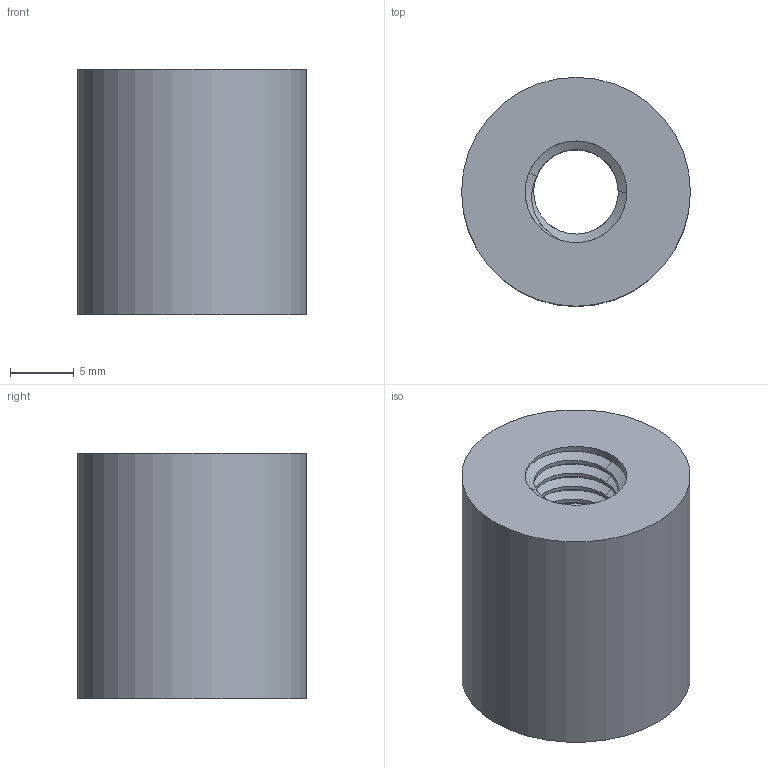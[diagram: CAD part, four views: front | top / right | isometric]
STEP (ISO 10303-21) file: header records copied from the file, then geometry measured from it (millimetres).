
FILE_DESCRIPTION(('Mechanical CAD reference from nasji.com'),'2;1');
FILE_NAME('NASJI.step','',(''),(''),'','NASJI distribution','');
FILE_SCHEMA(('AUTOMOTIVE_DESIGN { 1 0 10303 214 1 1 1 1 }'));
Length unit declared in the file: millimetre
Products named in the file (1): Open CASCADE STEP translator 7.8 198
Bounding box: 18 x 18 x 19.3 mm (x, y, z)
Volume: 4104.2 mm3; surface area: 2206.3 mm2
Topology: 1 solids, 1 shells, 127 faces, 343 edges, 218 vertices
Faces by surface type: bspline 107, cylinder 16, plane 4
Full cylindrical faces by diameter (mm): 8 x15, 18 x1
Entity records: 19947 total; most frequent: CARTESIAN_POINT 14956, ORIENTED_EDGE 686, PCURVE 686, DEFINITIONAL_REPRESENTATION 686, B_SPLINE_CURVE_WITH_KNOTS 638, DIRECTION 349, EDGE_CURVE 343, SURFACE_CURVE 340
